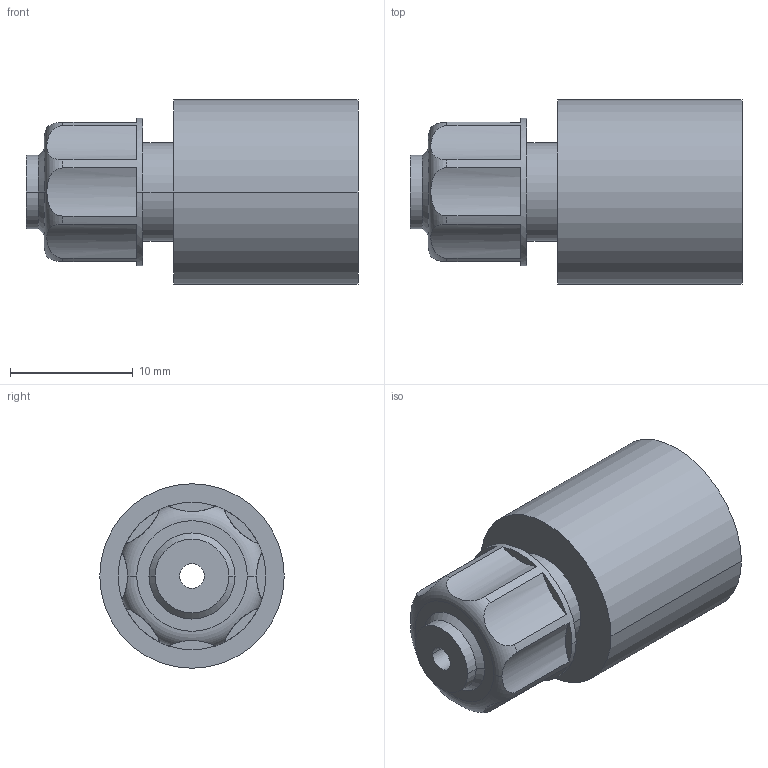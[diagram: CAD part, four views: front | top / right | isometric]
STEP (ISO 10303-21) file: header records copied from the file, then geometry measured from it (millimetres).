
FILE_DESCRIPTION((''),'2;1');
FILE_NAME('8939008520','2015-07-29T',('vol1hc'),(''),'PRO/ENGINEER BY PARAMETRIC TECHNOLOGY CORPORATION, 2012421','PRO/ENGINEER BY PARAMETRIC TECHNOLOGY CORPORATION, 2012421','');
FILE_SCHEMA(('CONFIG_CONTROL_DESIGN','SHAPE_APPEARANCE_LAYERS_GROUPS'));
Length unit declared in the file: millimetre
Products named in the file (1): 8939008520
Bounding box: 27 x 15 x 15 mm (x, y, z)
Volume: 2085.7 mm3; surface area: 2093.4 mm2
Topology: 1 solids, 1 shells, 40 faces, 98 edges, 64 vertices
Faces by surface type: cylinder 20, plane 14, cone 4, torus 2
Entity records: 1496 total; most frequent: CARTESIAN_POINT 458, DIRECTION 224, ORIENTED_EDGE 196, EDGE_CURVE 98, AXIS2_PLACEMENT_3D 96, VERTEX_POINT 64, CIRCLE 56, EDGE_LOOP 46
